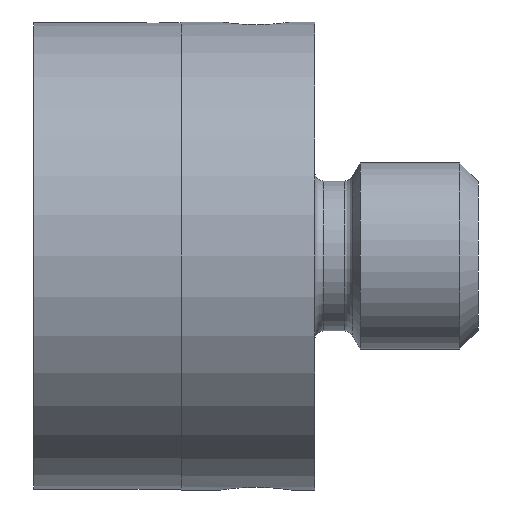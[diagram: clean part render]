
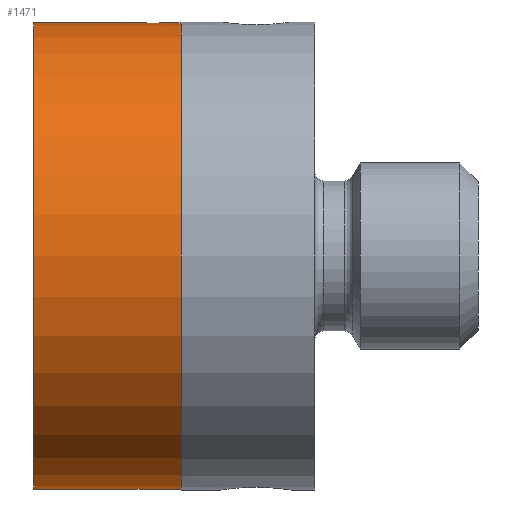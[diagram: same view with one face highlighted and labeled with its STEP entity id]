
A CAD part, left-side view. The second image highlights one B-rep face of the part: STEP entity #1471.
In plain terms, the highlighted cylindrical face has radius 9.975 mm (diameter 19.95 mm), a partial arc.
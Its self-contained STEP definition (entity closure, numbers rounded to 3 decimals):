
#97 = CARTESIAN_POINT ( 'NONE',  ( -0.34, -4.52, 9.97 ) ) ;
#107 = ORIENTED_EDGE ( 'NONE', *, *, #2974, .T. ) ;
#255 = CARTESIAN_POINT ( 'NONE',  ( -0.172, -5.75, 9.975 ) ) ;
#272 = DIRECTION ( 'NONE',  ( 0., 1., 0. ) ) ;
#521 = EDGE_CURVE ( 'NONE', #2109, #4779, #3951, .T. ) ;
#847 = EDGE_CURVE ( 'NONE', #3275, #4389, #994, .T. ) ;
#944 = CIRCLE ( 'NONE', #2225, 9.975 ) ;
#994 = B_SPLINE_CURVE_WITH_KNOTS ( 'NONE', 3,
 ( #1190, #2078, #97, #2368, #1553, #2449, #2202, #1581 ),
 .UNSPECIFIED., .F., .F.,
 ( 4, 2, 2, 4 ),
 ( 0.002, 0.003, 0.003, 0.003 ),
 .UNSPECIFIED. ) ;
#1000 = AXIS2_PLACEMENT_3D ( 'NONE', #2023, #4675, #2388 ) ;
#1014 = CARTESIAN_POINT ( 'NONE',  ( -0.65, -5.271, 9.954 ) ) ;
#1033 = CARTESIAN_POINT ( 'NONE',  ( -0.65, -5.1, 9.954 ) ) ;
#1044 = CARTESIAN_POINT ( 'NONE',  ( 0., -4.45, 9.975 ) ) ;
#1082 = CARTESIAN_POINT ( 'NONE',  ( 0., 0., -9.975 ) ) ;
#1190 = CARTESIAN_POINT ( 'NONE',  ( 0., -4.45, 9.975 ) ) ;
#1279 = CARTESIAN_POINT ( 'NONE',  ( 0., 7.305, 9.975 ) ) ;
#1363 = CYLINDRICAL_SURFACE ( 'NONE', #4231, 9.975 ) ;
#1396 = CARTESIAN_POINT ( 'NONE',  ( -0.65, -5.1, 9.954 ) ) ;
#1471 = ADVANCED_FACE ( 'NONE', ( #3380 ), #1363, .T. ) ;
#1541 = CARTESIAN_POINT ( 'NONE',  ( 0., 7.305, -9.975 ) ) ;
#1553 = CARTESIAN_POINT ( 'NONE',  ( -0.568, -4.772, 9.959 ) ) ;
#1581 = CARTESIAN_POINT ( 'NONE',  ( -0.65, -5.1, 9.954 ) ) ;
#1697 = DIRECTION ( 'NONE',  ( 0., 1., 0. ) ) ;
#1941 = CARTESIAN_POINT ( 'NONE',  ( 0., -6.3, 9.975 ) ) ;
#2023 = CARTESIAN_POINT ( 'NONE',  ( 0., -6.3, 0. ) ) ;
#2078 = CARTESIAN_POINT ( 'NONE',  ( -0.17, -4.45, 9.975 ) ) ;
#2109 = VERTEX_POINT ( 'NONE', #4523 ) ;
#2131 = VECTOR ( 'NONE', #4264, 1000. ) ;
#2202 = CARTESIAN_POINT ( 'NONE',  ( -0.65, -5.014, 9.954 ) ) ;
#2221 = VERTEX_POINT ( 'NONE', #3518 ) ;
#2225 = AXIS2_PLACEMENT_3D ( 'NONE', #2548, #272, #2929 ) ;
#2368 = CARTESIAN_POINT ( 'NONE',  ( -0.519, -4.7, 9.962 ) ) ;
#2373 = EDGE_CURVE ( 'NONE', #3275, #2221, #2464, .T. ) ;
#2378 = DIRECTION ( 'NONE',  ( 0., 1., 0. ) ) ;
#2388 = DIRECTION ( 'NONE',  ( 0., 0., 1. ) ) ;
#2449 = CARTESIAN_POINT ( 'NONE',  ( -0.633, -4.93, 9.955 ) ) ;
#2463 = EDGE_CURVE ( 'NONE', #4389, #4466, #4437, .T. ) ;
#2464 = LINE ( 'NONE', #4366, #4503 ) ;
#2516 = CARTESIAN_POINT ( 'NONE',  ( -0.34, -5.679, 9.97 ) ) ;
#2518 = VECTOR ( 'NONE', #3565, 1000. ) ;
#2548 = CARTESIAN_POINT ( 'NONE',  ( 0., 0., 0. ) ) ;
#2629 = LINE ( 'NONE', #1279, #2518 ) ;
#2915 = CARTESIAN_POINT ( 'NONE',  ( 0., -5.75, 9.975 ) ) ;
#2929 = DIRECTION ( 'NONE',  ( 0., 0., 1. ) ) ;
#2948 = ORIENTED_EDGE ( 'NONE', *, *, #2463, .F. ) ;
#2974 = EDGE_CURVE ( 'NONE', #2109, #3666, #4445, .T. ) ;
#3275 = VERTEX_POINT ( 'NONE', #1044 ) ;
#3365 = ORIENTED_EDGE ( 'NONE', *, *, #3828, .T. ) ;
#3380 = FACE_OUTER_BOUND ( 'NONE', #3597, .T. ) ;
#3499 = ORIENTED_EDGE ( 'NONE', *, *, #4426, .F. ) ;
#3518 = CARTESIAN_POINT ( 'NONE',  ( 0., 0., 9.975 ) ) ;
#3562 = ORIENTED_EDGE ( 'NONE', *, *, #847, .F. ) ;
#3565 = DIRECTION ( 'NONE',  ( 0., 1., 0. ) ) ;
#3580 = DIRECTION ( 'NONE',  ( 0., 0., 1. ) ) ;
#3597 = EDGE_LOOP ( 'NONE', ( #3990, #107, #3365, #2948, #3562, #4847, #3499 ) ) ;
#3666 = VERTEX_POINT ( 'NONE', #1941 ) ;
#3828 = EDGE_CURVE ( 'NONE', #3666, #4466, #2629, .T. ) ;
#3951 = LINE ( 'NONE', #1541, #2131 ) ;
#3990 = ORIENTED_EDGE ( 'NONE', *, *, #521, .F. ) ;
#4231 = AXIS2_PLACEMENT_3D ( 'NONE', #4659, #2378, #3580 ) ;
#4264 = DIRECTION ( 'NONE',  ( 0., 1., 0. ) ) ;
#4366 = CARTESIAN_POINT ( 'NONE',  ( 0., 7.305, 9.975 ) ) ;
#4389 = VERTEX_POINT ( 'NONE', #1033 ) ;
#4426 = EDGE_CURVE ( 'NONE', #4779, #2221, #944, .T. ) ;
#4437 = B_SPLINE_CURVE_WITH_KNOTS ( 'NONE', 3,
 ( #1396, #1014, #4811, #2516, #255, #2915 ),
 .UNSPECIFIED., .F., .F.,
 ( 4, 2, 4 ),
 ( 0.003, 0.004, 0.004 ),
 .UNSPECIFIED. ) ;
#4445 = CIRCLE ( 'NONE', #1000, 9.975 ) ;
#4466 = VERTEX_POINT ( 'NONE', #4470 ) ;
#4470 = CARTESIAN_POINT ( 'NONE',  ( 0., -5.75, 9.975 ) ) ;
#4503 = VECTOR ( 'NONE', #1697, 1000. ) ;
#4523 = CARTESIAN_POINT ( 'NONE',  ( 0., -6.3, -9.975 ) ) ;
#4659 = CARTESIAN_POINT ( 'NONE',  ( 0., 7.305, 0. ) ) ;
#4675 = DIRECTION ( 'NONE',  ( 0., 1., 0. ) ) ;
#4779 = VERTEX_POINT ( 'NONE', #1082 ) ;
#4811 = CARTESIAN_POINT ( 'NONE',  ( -0.58, -5.44, 9.959 ) ) ;
#4847 = ORIENTED_EDGE ( 'NONE', *, *, #2373, .T. ) ;
